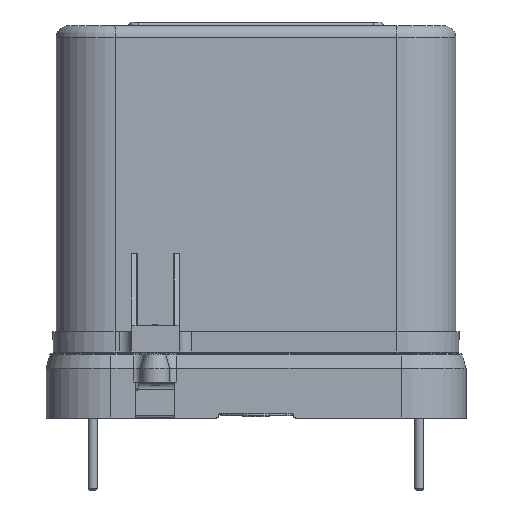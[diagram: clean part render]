
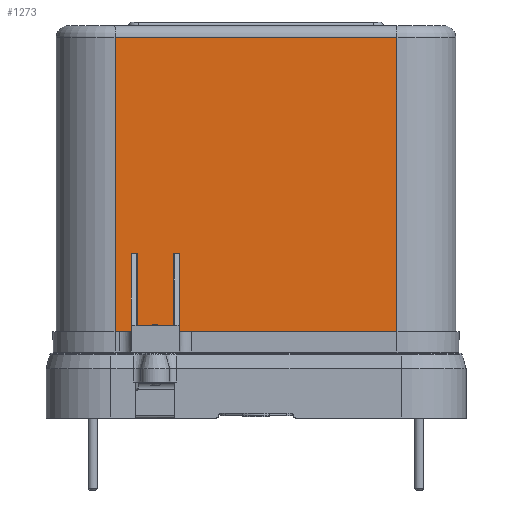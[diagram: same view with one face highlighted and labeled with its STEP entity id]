
A CAD part, front view. The second image highlights one B-rep face of the part: STEP entity #1273.
In plain terms, the highlighted planar face has unit normal (0, -1, 0).
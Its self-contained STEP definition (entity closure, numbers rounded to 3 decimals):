
#1273=ADVANCED_FACE('',(#19715),#19717,.F.);
#19715=FACE_BOUND('',#19716,.T.);
#19716=EDGE_LOOP('',(#36675,#36676,#36677,#36678,#36679,#36680,#36681,#36682,#36683,
#36684,#36685,#36686));
#19717=PLANE('',#19718);
#19718=AXIS2_PLACEMENT_3D('',#19719,#19720,#19721);
#19719=CARTESIAN_POINT('',(28.75,4.25,165.));
#19720=DIRECTION('',(0.,1.,0.));
#19721=DIRECTION('',(0.,-0.,1.));
#36675=ORIENTED_EDGE('',*,*,#45971,.F.);
#36676=ORIENTED_EDGE('',*,*,#46126,.T.);
#36677=ORIENTED_EDGE('',*,*,#46127,.T.);
#36678=ORIENTED_EDGE('',*,*,#46128,.T.);
#36679=ORIENTED_EDGE('',*,*,#46129,.F.);
#36680=ORIENTED_EDGE('',*,*,#46130,.F.);
#36681=ORIENTED_EDGE('',*,*,#46131,.T.);
#36682=ORIENTED_EDGE('',*,*,#46132,.T.);
#36683=ORIENTED_EDGE('',*,*,#46133,.F.);
#36684=ORIENTED_EDGE('',*,*,#46134,.F.);
#36685=ORIENTED_EDGE('',*,*,#46135,.T.);
#36686=ORIENTED_EDGE('',*,*,#46136,.T.);
#45971=EDGE_CURVE('',#51020,#51022,#51023,.T.);
#46126=EDGE_CURVE('',#51020,#51280,#51282,.T.);
#46127=EDGE_CURVE('',#51280,#51283,#51284,.T.);
#46128=EDGE_CURVE('',#51283,#51285,#51286,.T.);
#46129=EDGE_CURVE('',#51287,#51285,#51288,.T.);
#46130=EDGE_CURVE('',#51289,#51287,#51290,.T.);
#46131=EDGE_CURVE('',#51289,#51291,#51292,.T.);
#46132=EDGE_CURVE('',#51291,#51293,#51294,.T.);
#46133=EDGE_CURVE('',#51295,#51293,#51296,.T.);
#46134=EDGE_CURVE('',#51297,#51295,#51298,.T.);
#46135=EDGE_CURVE('',#51297,#51299,#51300,.T.);
#46136=EDGE_CURVE('',#51299,#51022,#51301,.T.);
#51020=VERTEX_POINT('',#60043);
#51022=VERTEX_POINT('',#60048);
#51023=LINE('',#60049,#60050);
#51280=VERTEX_POINT('',#61070);
#51282=LINE('',#61075,#61076);
#51283=VERTEX_POINT('',#61078);
#51284=LINE('',#61079,#61080);
#51285=VERTEX_POINT('',#61082);
#51286=LINE('',#61083,#61084);
#51287=VERTEX_POINT('',#61086);
#51288=LINE('',#61087,#61088);
#51289=VERTEX_POINT('',#61090);
#51290=LINE('',#61091,#61092);
#51291=VERTEX_POINT('',#61094);
#51292=LINE('',#61095,#61096);
#51293=VERTEX_POINT('',#61098);
#51294=LINE('',#61099,#61100);
#51295=VERTEX_POINT('',#61102);
#51296=LINE('',#61103,#61104);
#51297=VERTEX_POINT('',#61106);
#51298=LINE('',#61107,#61108);
#51299=VERTEX_POINT('',#61110);
#51300=LINE('',#61111,#61112);
#51301=LINE('',#61114,#61115);
#60043=CARTESIAN_POINT('',(53.,4.25,38.5));
#60048=CARTESIAN_POINT('',(38.,4.25,38.5));
#60049=CARTESIAN_POINT('',(53.,4.25,38.5));
#60050=VECTOR('',#60051,1.);
#60051=DIRECTION('',(-1.,0.,0.));
#61070=CARTESIAN_POINT('',(53.,4.25,68.5));
#61075=CARTESIAN_POINT('',(53.,4.25,38.5));
#61076=VECTOR('',#61077,1.);
#61077=DIRECTION('',(0.,0.,1.));
#61078=CARTESIAN_POINT('',(55.5,4.25,68.5));
#61079=CARTESIAN_POINT('',(53.,4.25,68.5));
#61080=VECTOR('',#61081,1.);
#61081=DIRECTION('',(1.,0.,0.));
#61082=CARTESIAN_POINT('',(55.5,4.25,36.));
#61083=CARTESIAN_POINT('',(55.5,4.25,68.5));
#61084=VECTOR('',#61085,1.);
#61085=DIRECTION('',(0.,0.,-1.));
#61086=CARTESIAN_POINT('',(146.25,4.25,36.));
#61087=CARTESIAN_POINT('',(146.25,4.25,36.));
#61088=VECTOR('',#61089,1.);
#61089=DIRECTION('',(-1.,0.,0.));
#61090=CARTESIAN_POINT('',(146.25,4.25,158.5));
#61091=CARTESIAN_POINT('',(146.25,4.25,158.5));
#61092=VECTOR('',#61093,1.);
#61093=DIRECTION('',(0.,0.,-1.));
#61094=CARTESIAN_POINT('',(28.75,4.25,158.5));
#61095=CARTESIAN_POINT('',(146.25,4.25,158.5));
#61096=VECTOR('',#61097,1.);
#61097=DIRECTION('',(-1.,0.,0.));
#61098=CARTESIAN_POINT('',(28.75,4.25,36.));
#61099=CARTESIAN_POINT('',(28.75,4.25,158.5));
#61100=VECTOR('',#61101,1.);
#61101=DIRECTION('',(0.,0.,-1.));
#61102=CARTESIAN_POINT('',(35.5,4.25,36.));
#61103=CARTESIAN_POINT('',(35.5,4.25,36.));
#61104=VECTOR('',#61105,1.);
#61105=DIRECTION('',(-1.,0.,0.));
#61106=CARTESIAN_POINT('',(35.5,4.25,68.5));
#61107=CARTESIAN_POINT('',(35.5,4.25,68.5));
#61108=VECTOR('',#61109,1.);
#61109=DIRECTION('',(0.,0.,-1.));
#61110=CARTESIAN_POINT('',(38.,4.25,68.5));
#61111=CARTESIAN_POINT('',(35.5,4.25,68.5));
#61112=VECTOR('',#61113,1.);
#61113=DIRECTION('',(1.,0.,0.));
#61114=CARTESIAN_POINT('',(38.,4.25,68.5));
#61115=VECTOR('',#61116,1.);
#61116=DIRECTION('',(0.,0.,-1.));
